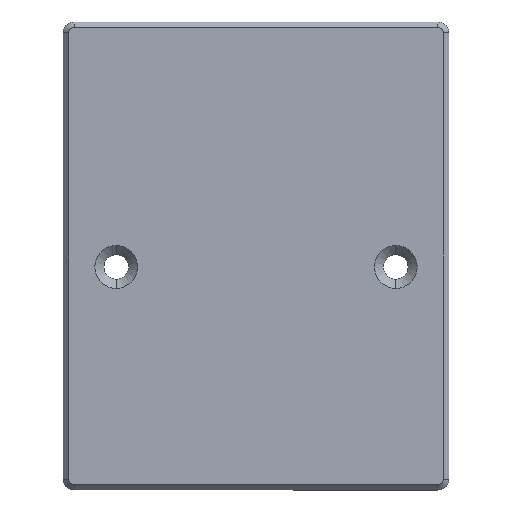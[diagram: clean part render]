
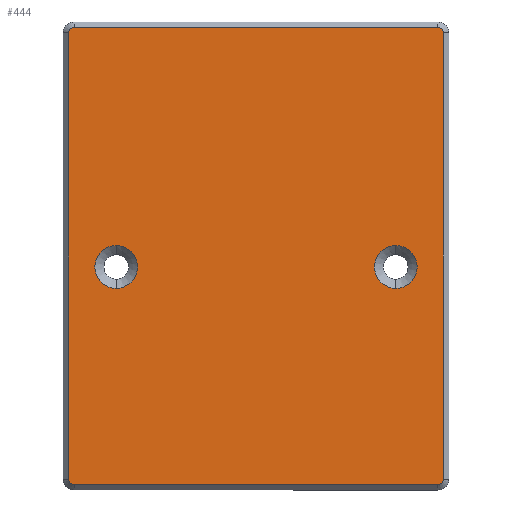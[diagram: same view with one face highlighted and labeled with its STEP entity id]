
A CAD part, front view. The second image highlights one B-rep face of the part: STEP entity #444.
In plain terms, the highlighted planar face has unit normal (0, -1, 0).
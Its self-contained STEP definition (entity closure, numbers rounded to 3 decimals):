
#14 = VECTOR ( 'NONE', #2077, 1000. ) ;
#26 = CIRCLE ( 'NONE', #2183, 1. ) ;
#119 = CIRCLE ( 'NONE', #2177, 1. ) ;
#126 = VECTOR ( 'NONE', #1334, 1000. ) ;
#141 = VERTEX_POINT ( 'NONE', #2975 ) ;
#183 = DIRECTION ( 'NONE',  ( 0., -1., 0. ) ) ;
#186 = DIRECTION ( 'NONE',  ( 0., 0., 1. ) ) ;
#194 = LINE ( 'NONE', #3094, #14 ) ;
#235 = CARTESIAN_POINT ( 'NONE',  ( 66.7, 0., 0.7 ) ) ;
#293 = VERTEX_POINT ( 'NONE', #235 ) ;
#294 = AXIS2_PLACEMENT_3D ( 'NONE', #1927, #359, #2199 ) ;
#299 = EDGE_LOOP ( 'NONE', ( #2069, #2504 ) ) ;
#300 = VERTEX_POINT ( 'NONE', #502 ) ;
#314 = CARTESIAN_POINT ( 'NONE',  ( -1.7, 0., 0. ) ) ;
#335 = VERTEX_POINT ( 'NONE', #1279 ) ;
#359 = DIRECTION ( 'NONE',  ( 0., -1., 0. ) ) ;
#375 = EDGE_CURVE ( 'NONE', #613, #335, #2675, .T. ) ;
#420 = DIRECTION ( 'NONE',  ( 0., -1., 0. ) ) ;
#444 = ADVANCED_FACE ( 'NONE', ( #445, #3233, #3146 ), #1021, .F. ) ;
#445 = FACE_OUTER_BOUND ( 'NONE', #896, .T. ) ;
#502 = CARTESIAN_POINT ( 'NONE',  ( -0.7, 0., -81.7 ) ) ;
#613 = VERTEX_POINT ( 'NONE', #2438 ) ;
#671 = DIRECTION ( 'NONE',  ( 0., -1., 0. ) ) ;
#678 = AXIS2_PLACEMENT_3D ( 'NONE', #2348, #762, #2596 ) ;
#698 = CARTESIAN_POINT ( 'NONE',  ( 66.7, 0., -80.7 ) ) ;
#762 = DIRECTION ( 'NONE',  ( 0., -1., 0. ) ) ;
#779 = EDGE_CURVE ( 'NONE', #1141, #300, #2795, .T. ) ;
#797 = VERTEX_POINT ( 'NONE', #698 ) ;
#853 = LINE ( 'NONE', #2573, #1548 ) ;
#896 = EDGE_LOOP ( 'NONE', ( #2945, #1487, #2743, #2844, #1744, #1211, #2343, #1419 ) ) ;
#946 = VERTEX_POINT ( 'NONE', #1402 ) ;
#1021 = PLANE ( 'NONE',  #2797 ) ;
#1052 = CIRCLE ( 'NONE', #294, 3.9 ) ;
#1103 = CARTESIAN_POINT ( 'NONE',  ( 58., 0., -45.9 ) ) ;
#1127 = CARTESIAN_POINT ( 'NONE',  ( -1.7, 0., 0.7 ) ) ;
#1141 = VERTEX_POINT ( 'NONE', #3085 ) ;
#1170 = EDGE_CURVE ( 'NONE', #1698, #1459, #2433, .T. ) ;
#1208 = EDGE_LOOP ( 'NONE', ( #3343, #2098 ) ) ;
#1211 = ORIENTED_EDGE ( 'NONE', *, *, #1537, .T. ) ;
#1220 = CARTESIAN_POINT ( 'NONE',  ( 66.7, 0., 0. ) ) ;
#1227 = EDGE_CURVE ( 'NONE', #1871, #141, #194, .T. ) ;
#1250 = DIRECTION ( 'NONE',  ( 1., 0., 0. ) ) ;
#1279 = CARTESIAN_POINT ( 'NONE',  ( 7., 0., -45.9 ) ) ;
#1308 = DIRECTION ( 'NONE',  ( 0., -1., 0. ) ) ;
#1334 = DIRECTION ( 'NONE',  ( 0., 0., -1. ) ) ;
#1340 = CARTESIAN_POINT ( 'NONE',  ( 65.7, 0., 0.7 ) ) ;
#1402 = CARTESIAN_POINT ( 'NONE',  ( 65.7, 0., -81.7 ) ) ;
#1419 = ORIENTED_EDGE ( 'NONE', *, *, #3223, .T. ) ;
#1457 = AXIS2_PLACEMENT_3D ( 'NONE', #2251, #671, #2505 ) ;
#1459 = VERTEX_POINT ( 'NONE', #1103 ) ;
#1487 = ORIENTED_EDGE ( 'NONE', *, *, #2559, .T. ) ;
#1497 = CIRCLE ( 'NONE', #1457, 1. ) ;
#1537 = EDGE_CURVE ( 'NONE', #2898, #1141, #2810, .T. ) ;
#1548 = VECTOR ( 'NONE', #1250, 1000. ) ;
#1609 = DIRECTION ( 'NONE',  ( 0., 0., 1. ) ) ;
#1667 = CARTESIAN_POINT ( 'NONE',  ( 58., 0., -38.1 ) ) ;
#1698 = VERTEX_POINT ( 'NONE', #1667 ) ;
#1743 = CARTESIAN_POINT ( 'NONE',  ( -0.7, 0., -80.7 ) ) ;
#1744 = ORIENTED_EDGE ( 'NONE', *, *, #2494, .T. ) ;
#1764 = AXIS2_PLACEMENT_3D ( 'NONE', #2329, #2337, #2350 ) ;
#1795 = CARTESIAN_POINT ( 'NONE',  ( 0., 0., 0. ) ) ;
#1808 = DIRECTION ( 'NONE',  ( 0., 1., 0. ) ) ;
#1824 = AXIS2_PLACEMENT_3D ( 'NONE', #2879, #1308, #3141 ) ;
#1864 = LINE ( 'NONE', #1220, #2640 ) ;
#1871 = VERTEX_POINT ( 'NONE', #3132 ) ;
#1881 = EDGE_CURVE ( 'NONE', #335, #613, #3292, .T. ) ;
#1927 = CARTESIAN_POINT ( 'NONE',  ( 58., 0., -42. ) ) ;
#1992 = CARTESIAN_POINT ( 'NONE',  ( -0.7, 0., 0.7 ) ) ;
#2010 = EDGE_CURVE ( 'NONE', #293, #1871, #26, .T. ) ;
#2012 = DIRECTION ( 'NONE',  ( 0., 0., 1. ) ) ;
#2064 = DIRECTION ( 'NONE',  ( 0., 0., 1. ) ) ;
#2069 = ORIENTED_EDGE ( 'NONE', *, *, #1881, .F. ) ;
#2077 = DIRECTION ( 'NONE',  ( -1., 0., 0. ) ) ;
#2098 = ORIENTED_EDGE ( 'NONE', *, *, #1170, .F. ) ;
#2177 = AXIS2_PLACEMENT_3D ( 'NONE', #1992, #420, #2264 ) ;
#2183 = AXIS2_PLACEMENT_3D ( 'NONE', #1340, #3170, #1609 ) ;
#2199 = DIRECTION ( 'NONE',  ( 0., 0., -1. ) ) ;
#2251 = CARTESIAN_POINT ( 'NONE',  ( 65.7, 0., -80.7 ) ) ;
#2264 = DIRECTION ( 'NONE',  ( 0., 0., 1. ) ) ;
#2329 = CARTESIAN_POINT ( 'NONE',  ( 7., 0., -42. ) ) ;
#2337 = DIRECTION ( 'NONE',  ( 0., -1., 0. ) ) ;
#2343 = ORIENTED_EDGE ( 'NONE', *, *, #779, .T. ) ;
#2348 = CARTESIAN_POINT ( 'NONE',  ( 58., 0., -42. ) ) ;
#2350 = DIRECTION ( 'NONE',  ( 0., 0., -1. ) ) ;
#2433 = CIRCLE ( 'NONE', #678, 3.9 ) ;
#2438 = CARTESIAN_POINT ( 'NONE',  ( 7., 0., -38.1 ) ) ;
#2477 = EDGE_CURVE ( 'NONE', #946, #797, #1497, .T. ) ;
#2494 = EDGE_CURVE ( 'NONE', #141, #2898, #119, .T. ) ;
#2504 = ORIENTED_EDGE ( 'NONE', *, *, #375, .F. ) ;
#2505 = DIRECTION ( 'NONE',  ( 0., 0., 1. ) ) ;
#2559 = EDGE_CURVE ( 'NONE', #797, #293, #1864, .T. ) ;
#2563 = AXIS2_PLACEMENT_3D ( 'NONE', #1743, #183, #2012 ) ;
#2573 = CARTESIAN_POINT ( 'NONE',  ( 0., 0., -81.7 ) ) ;
#2596 = DIRECTION ( 'NONE',  ( 0., 0., -1. ) ) ;
#2640 = VECTOR ( 'NONE', #186, 1000. ) ;
#2675 = CIRCLE ( 'NONE', #1764, 3.9 ) ;
#2743 = ORIENTED_EDGE ( 'NONE', *, *, #2010, .T. ) ;
#2795 = CIRCLE ( 'NONE', #2563, 1. ) ;
#2797 = AXIS2_PLACEMENT_3D ( 'NONE', #1795, #1808, #2064 ) ;
#2810 = LINE ( 'NONE', #314, #126 ) ;
#2822 = EDGE_CURVE ( 'NONE', #1459, #1698, #1052, .T. ) ;
#2844 = ORIENTED_EDGE ( 'NONE', *, *, #1227, .T. ) ;
#2879 = CARTESIAN_POINT ( 'NONE',  ( 7., 0., -42. ) ) ;
#2898 = VERTEX_POINT ( 'NONE', #1127 ) ;
#2945 = ORIENTED_EDGE ( 'NONE', *, *, #2477, .T. ) ;
#2975 = CARTESIAN_POINT ( 'NONE',  ( -0.7, 0., 1.7 ) ) ;
#3085 = CARTESIAN_POINT ( 'NONE',  ( -1.7, 0., -80.7 ) ) ;
#3094 = CARTESIAN_POINT ( 'NONE',  ( 0., 0., 1.7 ) ) ;
#3132 = CARTESIAN_POINT ( 'NONE',  ( 65.7, 0., 1.7 ) ) ;
#3141 = DIRECTION ( 'NONE',  ( 0., 0., -1. ) ) ;
#3146 = FACE_BOUND ( 'NONE', #299, .T. ) ;
#3170 = DIRECTION ( 'NONE',  ( 0., -1., 0. ) ) ;
#3223 = EDGE_CURVE ( 'NONE', #300, #946, #853, .T. ) ;
#3233 = FACE_BOUND ( 'NONE', #1208, .T. ) ;
#3292 = CIRCLE ( 'NONE', #1824, 3.9 ) ;
#3343 = ORIENTED_EDGE ( 'NONE', *, *, #2822, .F. ) ;
